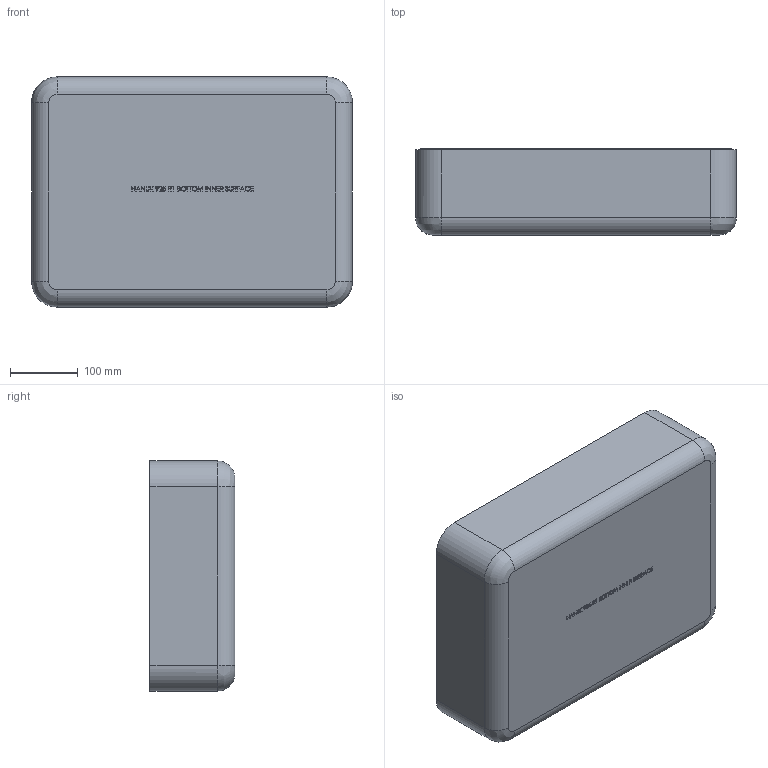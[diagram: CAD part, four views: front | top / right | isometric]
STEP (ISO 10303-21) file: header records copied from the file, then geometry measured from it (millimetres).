
FILE_DESCRIPTION (( 'STEP AP214' ), '1' );
FILE_NAME ('925_R1_Btm_INNER_SURFACE_STEP.STEP', '2020-03-17T20:28:27', ( '' ), ( '' ), 'SwSTEP 2.0', 'SolidWorks 2018', '' );
FILE_SCHEMA (( 'AUTOMOTIVE_DESIGN' ));
Length unit declared in the file: inch
Products named in the file (1): 925_R1_Btm_INNER_SURFACE_STEP
Bounding box: 472.17 x 126.35 x 338.82 mm (x, y, z)
Volume: 4960862.3 mm3; surface area: 645635.8 mm2
Topology: 1 solids, 1 shells, 1101 faces, 2664 edges, 1658 vertices
Faces by surface type: bspline 431, plane 378, cylinder 136, torus 112, cone 42, sphere 2
Entity records: 62724 total; most frequent: CARTESIAN_POINT 39865, ORIENTED_EDGE 5306, DIRECTION 3872, EDGE_CURVE 2653, VERTEX_POINT 1658, AXIS2_PLACEMENT_3D 1393, EDGE_LOOP 1205, FACE_OUTER_BOUND 1101
